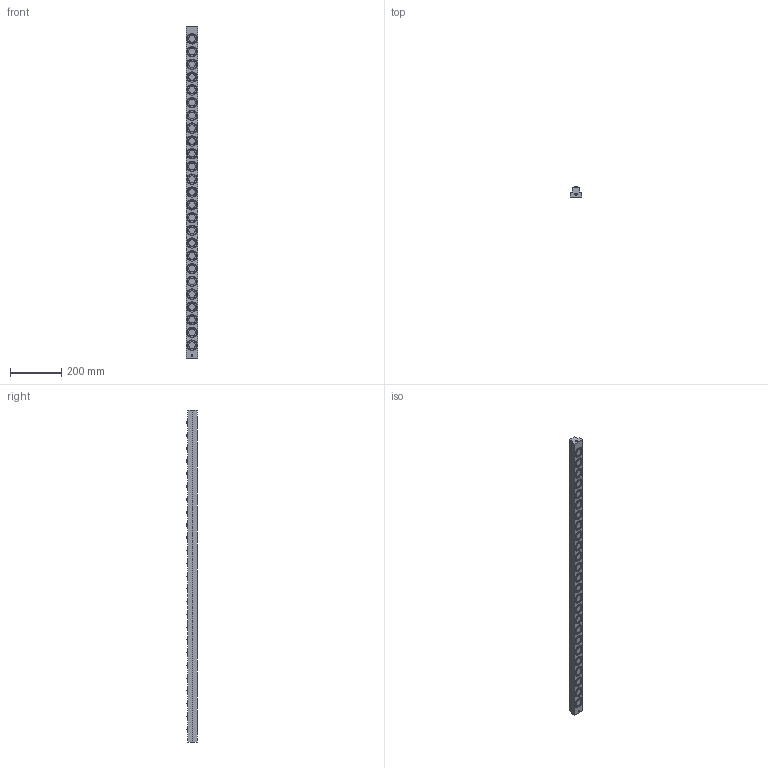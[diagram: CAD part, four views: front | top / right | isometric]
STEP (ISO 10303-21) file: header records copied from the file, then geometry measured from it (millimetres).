
FILE_DESCRIPTION (( 'STEP AP203' ), '1' );
FILE_NAME ('PVL50T-25.STEP', '2016-02-18T05:06:51', ( '' ), ( '' ), 'SwSTEP 2.0', 'SolidWorks 2013', '' );
FILE_SCHEMA (( 'CONFIG_CONTROL_DESIGN' ));
Length unit declared in the file: millimetre
Products named in the file (1): PVL50T-25
Bounding box: 45 x 42 x 1300 mm (x, y, z)
Volume: 1756004.8 mm3; surface area: 258247.8 mm2
Topology: 1 solids, 1 shells, 797 faces, 1877 edges, 1258 vertices
Faces by surface type: cylinder 506, plane 237, sphere 50, cone 4
Entity records: 23628 total; most frequent: DIRECTION 4637, CARTESIAN_POINT 3931, ORIENTED_EDGE 3750, AXIS2_PLACEMENT_3D 1964, EDGE_CURVE 1875, VERTEX_POINT 1258, CIRCLE 1166, EDGE_LOOP 977
